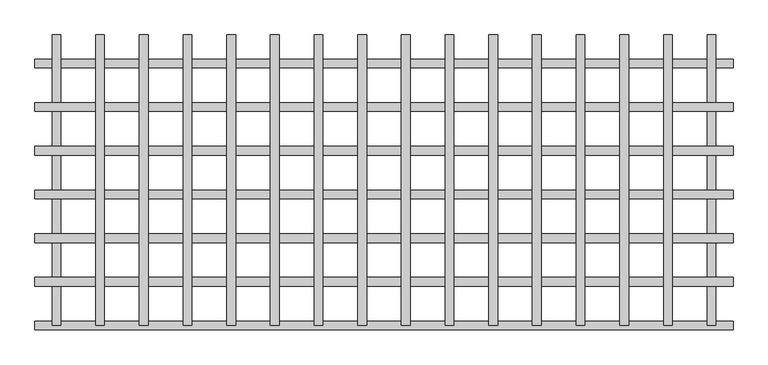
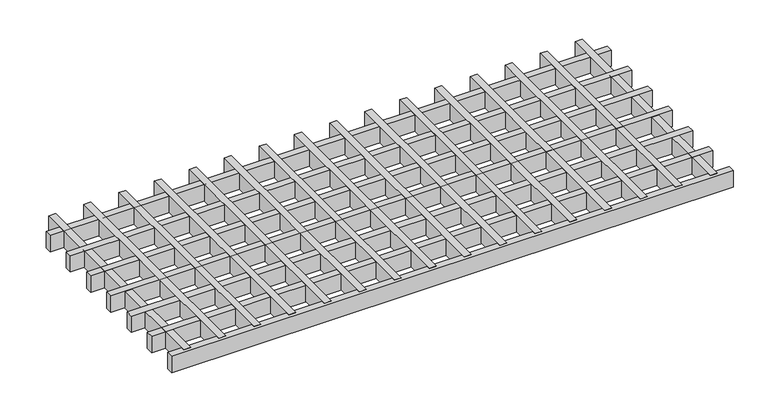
"""IFC4 building model written with IfcOpenShell, lengths in millimetres: proxy geometry, durlum_GEO_panel : durlum_GEO_15_width_cut."""

from ifc_helpers import new_model, si_unit, origin, origin_with_axes, place, context, project, spatial, polyline, outline, extrude, source, transform, mapped, element, save


def generic_models_08d26d29(model_context):
    return source(origin(), model_context, "Body", "SweptSolid", [
        extrude(outline(polyline([(480.0, 249.5), (495.0, 249.5), (495.0, -249.5), (480.0, -249.5), (480.0, 249.5)])), origin_with_axes(), (0.0, 0.0, 1.0), 37.0),
        extrude(outline(polyline([(405.0, 249.5), (420.0, 249.5), (420.0, -249.5), (405.0, -249.5), (405.0, 249.5)])), origin_with_axes(), (0.0, 0.0, 1.0), 37.0),
        extrude(outline(polyline([(330.0, 249.5), (345.0, 249.5), (345.0, -249.5), (330.0, -249.5), (330.0, 249.5)])), origin_with_axes(), (0.0, 0.0, 1.0), 37.0),
        extrude(outline(polyline([(255.0, 249.5), (270.0, 249.5), (270.0, -249.5), (255.0, -249.5), (255.0, 249.5)])), origin_with_axes(), (0.0, 0.0, 1.0), 37.0),
        extrude(outline(polyline([(180.0, 249.5), (195.0, 249.5), (195.0, -249.5), (180.0, -249.5), (180.0, 249.5)])), origin_with_axes(), (0.0, 0.0, 1.0), 37.0),
        extrude(outline(polyline([(105.0, 249.5), (120.0, 249.5), (120.0, -249.5), (105.0, -249.5), (105.0, 249.5)])), origin_with_axes(), (0.0, 0.0, 1.0), 37.0),
        extrude(outline(polyline([(30.0, 249.5), (45.0, 249.5), (45.0, -249.5), (30.0, -249.5), (30.0, 249.5)])), origin_with_axes(), (0.0, 0.0, 1.0), 37.0),
        extrude(outline(polyline([(-45.0, 249.5), (-30.0, 249.5), (-30.0, -249.5), (-45.0, -249.5), (-45.0, 249.5)])), origin_with_axes(), (0.0, 0.0, 1.0), 37.0),
        extrude(outline(polyline([(-120.0, 249.5), (-105.0, 249.5), (-105.0, -249.5), (-120.0, -249.5), (-120.0, 249.5)])), origin_with_axes(), (0.0, 0.0, 1.0), 37.0),
        extrude(outline(polyline([(-195.0, 249.5), (-180.0, 249.5), (-180.0, -249.5), (-195.0, -249.5), (-195.0, 249.5)])), origin_with_axes(), (0.0, 0.0, 1.0), 37.0),
        extrude(outline(polyline([(-270.0, 249.5), (-255.0, 249.5), (-255.0, -249.5), (-270.0, -249.5), (-270.0, 249.5)])), origin_with_axes(), (0.0, 0.0, 1.0), 37.0),
        extrude(outline(polyline([(-345.0, 249.5), (-330.0, 249.5), (-330.0, -249.5), (-345.0, -249.5), (-345.0, 249.5)])), origin_with_axes(), (0.0, 0.0, 1.0), 37.0),
        extrude(outline(polyline([(-420.0, 249.5), (-405.0, 249.5), (-405.0, -249.5), (-420.0, -249.5), (-420.0, 249.5)])), origin_with_axes(), (0.0, 0.0, 1.0), 37.0),
        extrude(outline(polyline([(-495.0, 249.5), (-480.0, 249.5), (-480.0, -249.5), (-495.0, -249.5), (-495.0, 249.5)])), origin_with_axes(), (0.0, 0.0, 1.0), 37.0),
        extrude(outline(polyline([(599.5, -167.0), (599.5, -182.0), (-599.5, -182.0), (-599.5, -167.0), (599.5, -167.0)])), origin_with_axes(), (0.0, 0.0, 1.0), 37.0),
        extrude(outline(polyline([(599.5, -92.0), (599.5, -107.0), (-599.5, -107.0), (-599.5, -92.0), (599.5, -92.0)])), origin_with_axes(), (0.0, 0.0, 1.0), 37.0),
        extrude(outline(polyline([(599.5, -17.0), (599.5, -32.0), (-599.5, -32.0), (-599.5, -17.0), (599.5, -17.0)])), origin_with_axes(), (0.0, 0.0, 1.0), 37.0),
        extrude(outline(polyline([(599.5, 58.0), (599.5, 43.0), (-599.5, 43.0), (-599.5, 58.0), (599.5, 58.0)])), origin_with_axes(), (0.0, 0.0, 1.0), 37.0),
        extrude(outline(polyline([(599.5, 133.0), (599.5, 118.0), (-599.5, 118.0), (-599.5, 133.0), (599.5, 133.0)])), origin_with_axes(), (0.0, 0.0, 1.0), 37.0),
        extrude(outline(polyline([(555.0, 249.5), (570.0, 249.5), (570.0, -249.5), (555.0, -249.5), (555.0, 249.5)])), origin_with_axes(), (0.0, 0.0, 1.0), 37.0),
        extrude(outline(polyline([(-570.0, 249.5), (-555.0, 249.5), (-555.0, -249.5), (-570.0, -249.5), (-570.0, 249.5)])), origin_with_axes(), (0.0, 0.0, 1.0), 37.0),
        extrude(outline(polyline([(599.5, -242.0), (599.5, -257.0), (-599.5, -257.0), (-599.5, -242.0), (599.5, -242.0)])), origin_with_axes(), (0.0, 0.0, 1.0), 37.0),
        extrude(outline(polyline([(599.5, 208.0), (599.5, 193.0), (-599.5, 193.0), (-599.5, 208.0), (599.5, 208.0)])), origin_with_axes(), (0.0, 0.0, 1.0), 37.0),
    ])


if __name__ == "__main__":
    model = new_model("IFC4")
    model_context = context("Model", 3, world=origin())
    ifc_project = project(units=[si_unit("LENGTHUNIT", "METRE", prefix="MILLI")], contexts=[model_context])
    site = spatial("IfcSite", under=ifc_project)
    building = spatial("IfcBuilding", under=site)
    placement = place(None, origin())
    generic_models_shape = generic_models_08d26d29(model_context)
    element("IfcBuildingElementProxy", 1, Name="durlum_GEO_panel : durlum_GEO_15_width_cut", ObjectType="durlum_GEO_panel : durlum_GEO_15_width_cut", at=placement, inside=building, context=model_context, shape_type="MappedRepresentation", body=[
        mapped(generic_models_shape, transform((0.0, 0.0, 0.0), x_axis=(1.0, 0.0, 0.0), y_axis=(0.0, 1.0, 0.0), z_axis=(0.0, 0.0, 1.0))),
    ])
    save(model, "model.ifc")
